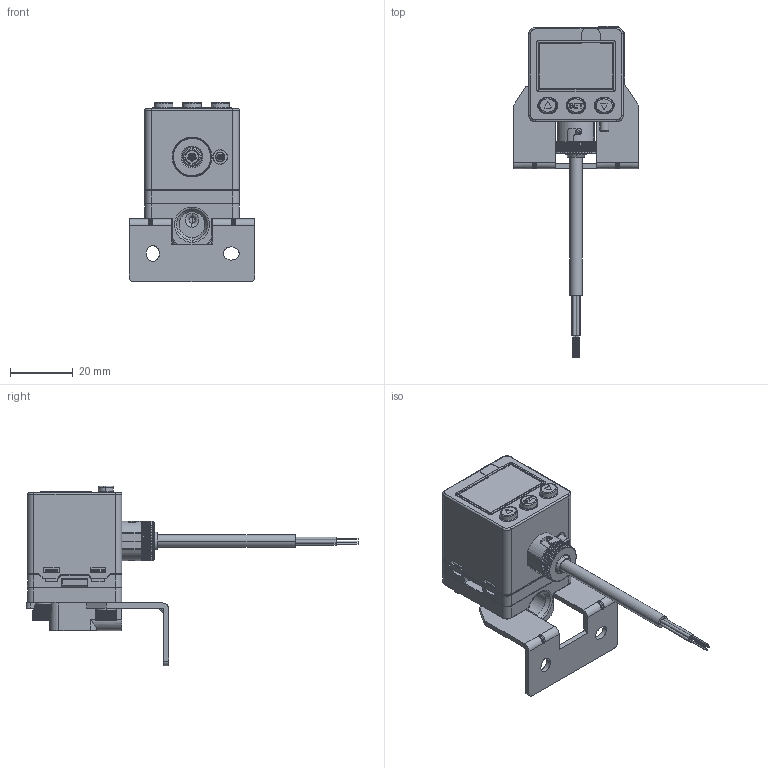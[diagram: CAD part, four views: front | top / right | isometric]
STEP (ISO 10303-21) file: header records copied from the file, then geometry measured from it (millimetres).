
FILE_DESCRIPTION((''),'2;1');
FILE_NAME('KP45-BT-17','2019-07-05T',('Stark'),(''),'CREO PARAMETRIC BY PTC INC, 2014500','CREO PARAMETRIC BY PTC INC, 2014500','');
FILE_SCHEMA(('CONFIG_CONTROL_DESIGN'));
Products named in the file (1): KP45-BT-17
Bounding box: 40 x 105.8 x 57.2 mm (x, y, z)
Volume: 37341.9 mm3; surface area: 12650.7 mm2
Topology: 1 solids, 2 shells, 1752 faces, 4527 edges, 2826 vertices
Faces by surface type: plane 787, cylinder 516, cone 292, bspline 85, torus 54, extrusion 14, sphere 4
Entity records: 67288 total; most frequent: CARTESIAN_POINT 27215, ORIENTED_EDGE 9050, DIRECTION 7380, EDGE_CURVE 4525, VERTEX_POINT 2826, AXIS2_PLACEMENT_3D 2757, VECTOR 1866, LINE 1852
